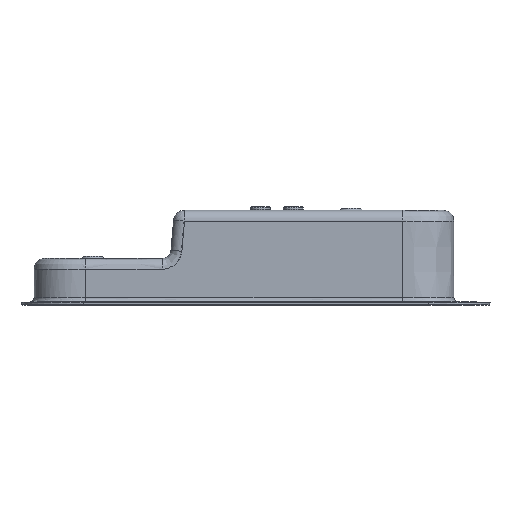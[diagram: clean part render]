
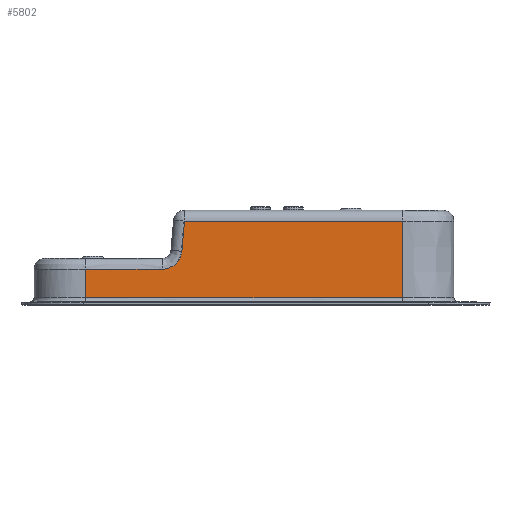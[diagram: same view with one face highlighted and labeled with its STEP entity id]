
A CAD part, top view. The second image highlights one B-rep face of the part: STEP entity #5802.
In plain terms, the highlighted planar face has unit normal (0, 0, 1) as drawn and (0, 1, 0) by its records, which use the part's own axes.
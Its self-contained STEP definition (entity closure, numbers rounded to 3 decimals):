
#419=B_SPLINE_CURVE_WITH_KNOTS('',3,(#13793,#13794,#13795,#13796,#13797,
#13798,#13799,#13800,#13801,#13802,#13803,#13804,#13805,#13806,#13807,#13808,
#13809,#13810,#13811,#13812,#13813,#13814,#13815,#13816,#13817,#13818,#13819,
#13820,#13821,#13822,#13823,#13824,#13825,#13826,#13827,#13828,#13829,#13830,
#13831,#13832,#13833,#13834,#13835,#13836,#13837,#13838,#13839,#13840,#13841,
#13842,#13843,#13844,#13845,#13846,#13847,#13848,#13849,#13850,#13851,#13852,
#13853,#13854,#13855,#13856,#13857,#13858,#13859,#13860,#13861,#13862,#13863,
#13864,#13865,#13866,#13867,#13868,#13869,#13870,#13871),.UNSPECIFIED.,
 .F.,.F.,(4,3,3,3,3,3,3,3,3,3,3,3,3,3,3,3,3,3,3,3,3,3,3,3,3,3,4),(-1.,-0.96,
-0.919,-0.877,-0.835,-0.793,
-0.75,-0.711,-0.672,-0.633,-0.594,
-0.554,-0.515,-0.5,-0.461,-0.421,
-0.382,-0.343,-0.304,-0.265,
-0.25,-0.208,-0.166,-0.125,-0.084,
-0.042,0.),.UNSPECIFIED.);
#729=PLANE('',#6222);
#934=FACE_OUTER_BOUND('',#1303,.T.);
#1303=EDGE_LOOP('',(#4856,#4857,#4858,#4859,#4860,#4861,#4862));
#1814=LINE('',#13791,#2266);
#1815=LINE('',#13873,#2267);
#1816=LINE('',#13875,#2268);
#1817=LINE('',#13877,#2269);
#1818=LINE('',#13879,#2270);
#1819=LINE('',#13880,#2271);
#2266=VECTOR('',#6996,10.);
#2267=VECTOR('',#6997,10.);
#2268=VECTOR('',#6998,10.);
#2269=VECTOR('',#6999,10.);
#2270=VECTOR('',#7000,10.);
#2271=VECTOR('',#7001,10.);
#2813=VERTEX_POINT('',#13789);
#2814=VERTEX_POINT('',#13790);
#2815=VERTEX_POINT('',#13792);
#2816=VERTEX_POINT('',#13872);
#2817=VERTEX_POINT('',#13874);
#2818=VERTEX_POINT('',#13876);
#2819=VERTEX_POINT('',#13878);
#3529=EDGE_CURVE('',#2813,#2814,#1814,.T.);
#3530=EDGE_CURVE('',#2815,#2813,#419,.T.);
#3531=EDGE_CURVE('',#2816,#2815,#1815,.T.);
#3532=EDGE_CURVE('',#2817,#2816,#1816,.T.);
#3533=EDGE_CURVE('',#2818,#2817,#1817,.T.);
#3534=EDGE_CURVE('',#2819,#2818,#1818,.T.);
#3535=EDGE_CURVE('',#2814,#2819,#1819,.T.);
#4856=ORIENTED_EDGE('',*,*,#3529,.F.);
#4857=ORIENTED_EDGE('',*,*,#3530,.F.);
#4858=ORIENTED_EDGE('',*,*,#3531,.F.);
#4859=ORIENTED_EDGE('',*,*,#3532,.F.);
#4860=ORIENTED_EDGE('',*,*,#3533,.F.);
#4861=ORIENTED_EDGE('',*,*,#3534,.F.);
#4862=ORIENTED_EDGE('',*,*,#3535,.F.);
#5802=ADVANCED_FACE('',(#934),#729,.F.);
#6222=AXIS2_PLACEMENT_3D('',#13788,#6994,#6995);
#6994=DIRECTION('center_axis',(0.,-1.,0.));
#6995=DIRECTION('ref_axis',(0.,0.,-1.));
#6996=DIRECTION('',(0.085,0.,-0.996));
#6997=DIRECTION('',(1.,0.,0.));
#6998=DIRECTION('',(0.,0.,-1.));
#6999=DIRECTION('',(-1.,0.,0.));
#7000=DIRECTION('',(0.,0.,1.));
#7001=DIRECTION('',(1.,0.,0.));
#13788=CARTESIAN_POINT('Origin',(-72.444,432.743,-21.));
#13789=CARTESIAN_POINT('',(-27.661,432.743,-23.234));
#13790=CARTESIAN_POINT('',(-26.484,432.743,-37.));
#13791=CARTESIAN_POINT('',(-27.661,432.743,-23.234));
#13792=CARTESIAN_POINT('',(-36.628,432.743,-15.));
#13793=CARTESIAN_POINT('Ctrl Pts',(-36.628,432.743,-15.));
#13794=CARTESIAN_POINT('Ctrl Pts',(-36.448,432.743,-15.));
#13795=CARTESIAN_POINT('Ctrl Pts',(-36.268,432.743,-15.005));
#13796=CARTESIAN_POINT('Ctrl Pts',(-36.088,432.743,-15.016));
#13797=CARTESIAN_POINT('Ctrl Pts',(-35.907,432.743,-15.027));
#13798=CARTESIAN_POINT('Ctrl Pts',(-35.726,432.743,-15.043));
#13799=CARTESIAN_POINT('Ctrl Pts',(-35.546,432.743,-15.065));
#13800=CARTESIAN_POINT('Ctrl Pts',(-35.358,432.743,-15.087));
#13801=CARTESIAN_POINT('Ctrl Pts',(-35.172,432.743,-15.116));
#13802=CARTESIAN_POINT('Ctrl Pts',(-34.986,432.743,-15.15));
#13803=CARTESIAN_POINT('Ctrl Pts',(-34.805,432.743,-15.183));
#13804=CARTESIAN_POINT('Ctrl Pts',(-34.624,432.743,-15.223));
#13805=CARTESIAN_POINT('Ctrl Pts',(-34.445,432.743,-15.267));
#13806=CARTESIAN_POINT('Ctrl Pts',(-34.26,432.743,-15.313));
#13807=CARTESIAN_POINT('Ctrl Pts',(-34.078,432.743,-15.365));
#13808=CARTESIAN_POINT('Ctrl Pts',(-33.897,432.743,-15.422));
#13809=CARTESIAN_POINT('Ctrl Pts',(-33.717,432.743,-15.48));
#13810=CARTESIAN_POINT('Ctrl Pts',(-33.538,432.743,-15.543));
#13811=CARTESIAN_POINT('Ctrl Pts',(-33.363,432.743,-15.612));
#13812=CARTESIAN_POINT('Ctrl Pts',(-33.203,432.743,-15.674));
#13813=CARTESIAN_POINT('Ctrl Pts',(-33.045,432.743,-15.741));
#13814=CARTESIAN_POINT('Ctrl Pts',(-32.888,432.743,-15.812));
#13815=CARTESIAN_POINT('Ctrl Pts',(-32.731,432.743,-15.884));
#13816=CARTESIAN_POINT('Ctrl Pts',(-32.575,432.743,-15.961));
#13817=CARTESIAN_POINT('Ctrl Pts',(-32.421,432.743,-16.042));
#13818=CARTESIAN_POINT('Ctrl Pts',(-32.267,432.743,-16.124));
#13819=CARTESIAN_POINT('Ctrl Pts',(-32.115,432.743,-16.21));
#13820=CARTESIAN_POINT('Ctrl Pts',(-31.965,432.743,-16.301));
#13821=CARTESIAN_POINT('Ctrl Pts',(-31.815,432.743,-16.392));
#13822=CARTESIAN_POINT('Ctrl Pts',(-31.667,432.743,-16.488));
#13823=CARTESIAN_POINT('Ctrl Pts',(-31.522,432.743,-16.588));
#13824=CARTESIAN_POINT('Ctrl Pts',(-31.377,432.743,-16.688));
#13825=CARTESIAN_POINT('Ctrl Pts',(-31.235,432.743,-16.792));
#13826=CARTESIAN_POINT('Ctrl Pts',(-31.096,432.743,-16.901));
#13827=CARTESIAN_POINT('Ctrl Pts',(-30.957,432.743,-17.009));
#13828=CARTESIAN_POINT('Ctrl Pts',(-30.822,432.743,-17.121));
#13829=CARTESIAN_POINT('Ctrl Pts',(-30.69,432.743,-17.237));
#13830=CARTESIAN_POINT('Ctrl Pts',(-30.64,432.743,-17.281));
#13831=CARTESIAN_POINT('Ctrl Pts',(-30.59,432.743,-17.326));
#13832=CARTESIAN_POINT('Ctrl Pts',(-30.541,432.743,-17.371));
#13833=CARTESIAN_POINT('Ctrl Pts',(-30.412,432.743,-17.489));
#13834=CARTESIAN_POINT('Ctrl Pts',(-30.286,432.743,-17.612));
#13835=CARTESIAN_POINT('Ctrl Pts',(-30.164,432.743,-17.738));
#13836=CARTESIAN_POINT('Ctrl Pts',(-30.041,432.743,-17.864));
#13837=CARTESIAN_POINT('Ctrl Pts',(-29.922,432.743,-17.994));
#13838=CARTESIAN_POINT('Ctrl Pts',(-29.807,432.743,-18.128));
#13839=CARTESIAN_POINT('Ctrl Pts',(-29.693,432.743,-18.261));
#13840=CARTESIAN_POINT('Ctrl Pts',(-29.582,432.743,-18.398));
#13841=CARTESIAN_POINT('Ctrl Pts',(-29.475,432.743,-18.538));
#13842=CARTESIAN_POINT('Ctrl Pts',(-29.368,432.743,-18.676));
#13843=CARTESIAN_POINT('Ctrl Pts',(-29.266,432.743,-18.819));
#13844=CARTESIAN_POINT('Ctrl Pts',(-29.168,432.743,-18.963));
#13845=CARTESIAN_POINT('Ctrl Pts',(-29.071,432.743,-19.107));
#13846=CARTESIAN_POINT('Ctrl Pts',(-28.978,432.743,-19.254));
#13847=CARTESIAN_POINT('Ctrl Pts',(-28.889,432.743,-19.403));
#13848=CARTESIAN_POINT('Ctrl Pts',(-28.801,432.743,-19.551));
#13849=CARTESIAN_POINT('Ctrl Pts',(-28.717,432.743,-19.702));
#13850=CARTESIAN_POINT('Ctrl Pts',(-28.638,432.743,-19.854));
#13851=CARTESIAN_POINT('Ctrl Pts',(-28.607,432.743,-19.913));
#13852=CARTESIAN_POINT('Ctrl Pts',(-28.577,432.743,-19.972));
#13853=CARTESIAN_POINT('Ctrl Pts',(-28.548,432.743,-20.032));
#13854=CARTESIAN_POINT('Ctrl Pts',(-28.466,432.743,-20.199));
#13855=CARTESIAN_POINT('Ctrl Pts',(-28.389,432.743,-20.369));
#13856=CARTESIAN_POINT('Ctrl Pts',(-28.317,432.743,-20.542));
#13857=CARTESIAN_POINT('Ctrl Pts',(-28.246,432.743,-20.713));
#13858=CARTESIAN_POINT('Ctrl Pts',(-28.18,432.743,-20.886));
#13859=CARTESIAN_POINT('Ctrl Pts',(-28.119,432.743,-21.062));
#13860=CARTESIAN_POINT('Ctrl Pts',(-28.059,432.743,-21.237));
#13861=CARTESIAN_POINT('Ctrl Pts',(-28.004,432.743,-21.414));
#13862=CARTESIAN_POINT('Ctrl Pts',(-27.955,432.743,-21.593));
#13863=CARTESIAN_POINT('Ctrl Pts',(-27.906,432.743,-21.768));
#13864=CARTESIAN_POINT('Ctrl Pts',(-27.863,432.743,-21.946));
#13865=CARTESIAN_POINT('Ctrl Pts',(-27.825,432.743,-22.124));
#13866=CARTESIAN_POINT('Ctrl Pts',(-27.786,432.743,-22.307));
#13867=CARTESIAN_POINT('Ctrl Pts',(-27.753,432.743,-22.492));
#13868=CARTESIAN_POINT('Ctrl Pts',(-27.726,432.743,-22.677));
#13869=CARTESIAN_POINT('Ctrl Pts',(-27.698,432.743,-22.862));
#13870=CARTESIAN_POINT('Ctrl Pts',(-27.677,432.743,-23.047));
#13871=CARTESIAN_POINT('Ctrl Pts',(-27.661,432.743,-23.234));
#13872=CARTESIAN_POINT('',(-71.719,432.743,-15.));
#13873=CARTESIAN_POINT('',(-71.719,432.743,-15.));
#13874=CARTESIAN_POINT('',(-71.719,432.743,-2.));
#13875=CARTESIAN_POINT('',(-71.719,432.743,-2.));
#13876=CARTESIAN_POINT('',(73.204,432.743,-2.));
#13877=CARTESIAN_POINT('',(73.204,432.743,-2.));
#13878=CARTESIAN_POINT('',(73.204,432.743,-37.));
#13879=CARTESIAN_POINT('',(73.204,432.743,-37.));
#13880=CARTESIAN_POINT('',(-26.484,432.743,-37.));
